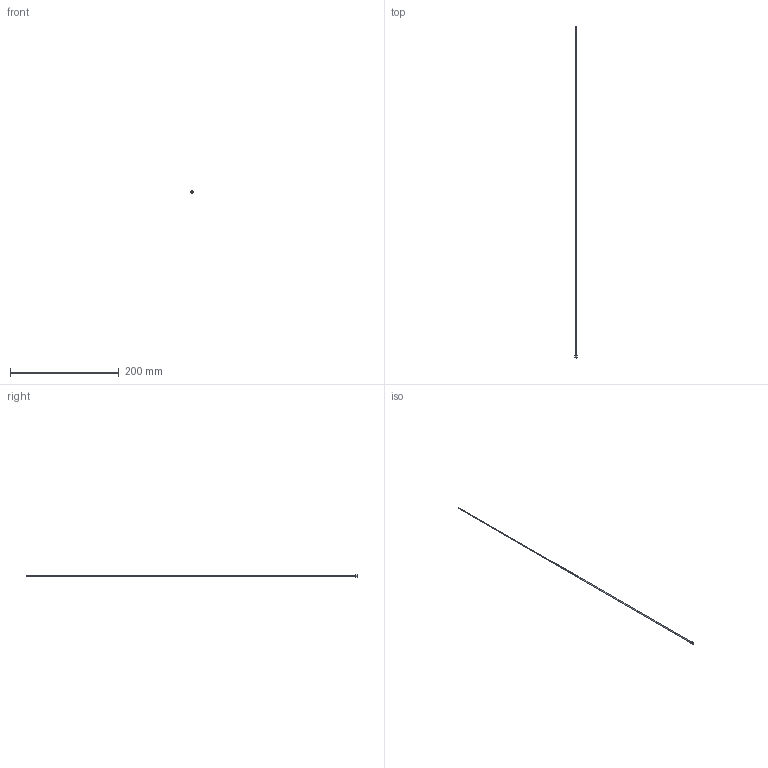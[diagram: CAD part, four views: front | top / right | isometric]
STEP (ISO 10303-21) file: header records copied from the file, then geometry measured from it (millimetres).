
FILE_DESCRIPTION(/* description */ (''),/* implementation_level */ '2;1');
FILE_NAME(/* name */ 'C:/Users/drich/Desktop/JHF072T-24 v2.step',/* time_stamp */ '2020-01-02T20:02:41-06:00',/* author */ (''),/* organization */ (''),/* preprocessor_version */ 'ST-DEVELOPER v18',/* originating_system */ 'Autodesk Translation Framework v8.12.0.6',/* authorisation */ '');
FILE_SCHEMA (('AUTOMOTIVE_DESIGN { 1 0 10303 214 3 1 1 }'));
Length unit declared in the file: inch
Products named in the file (1): JHF072T-24
Bounding box: 4.8 x 609.6 x 4.8 mm (x, y, z)
Volume: 565.6 mm3; surface area: 6494.6 mm2
Topology: 1 solids, 1 shells, 10 faces, 25 edges, 19 vertices
Faces by surface type: cylinder 4, plane 4, cone 1, torus 1
Full cylindrical faces by diameter (mm): 1.524 x1, 1.829 x1, 4.75 x1, 4.801 x1
Entity records: 364 total; most frequent: DIRECTION 67, CARTESIAN_POINT 55, ORIENTED_EDGE 50, AXIS2_PLACEMENT_3D 31, EDGE_CURVE 25, CIRCLE 20, VERTEX_POINT 19, EDGE_LOOP 14
